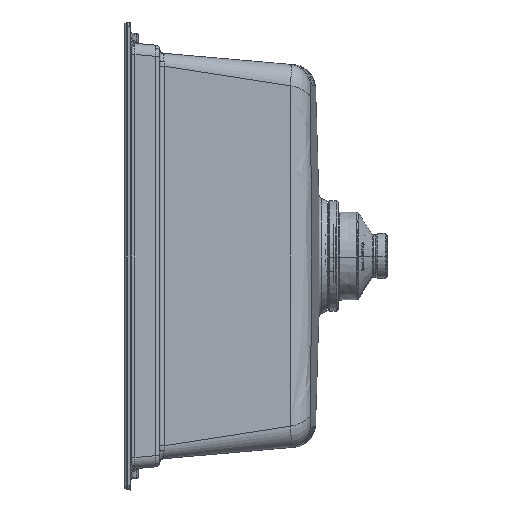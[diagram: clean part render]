
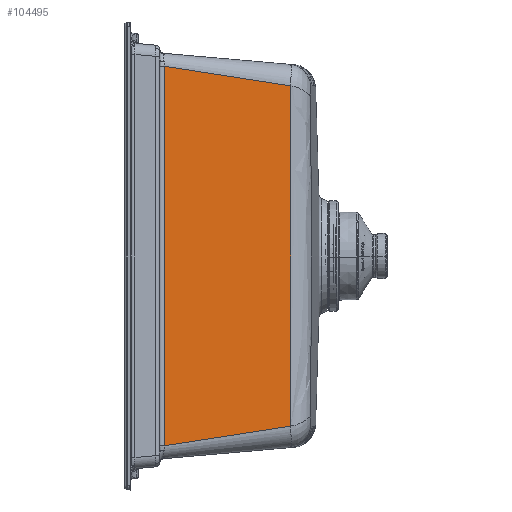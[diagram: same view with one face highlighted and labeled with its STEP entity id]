
A CAD part, left-side view. The second image highlights one B-rep face of the part: STEP entity #104495.
In plain terms, the highlighted planar face has unit normal (-0.996, -0.087, 0).
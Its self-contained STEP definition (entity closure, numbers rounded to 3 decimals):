
#9320 = VECTOR ( 'NONE', #123143, 1000. ) ;
#10449 = CARTESIAN_POINT ( 'NONE',  ( 33.522, -36.381, -47.272 ) ) ;
#13867 = ORIENTED_EDGE ( 'NONE', *, *, #24684, .T. ) ;
#24684 = EDGE_CURVE ( 'NONE', #52439, #131374, #196235, .T. ) ;
#25268 = AXIS2_PLACEMENT_3D ( 'NONE', #224125, #173479, #171213 ) ;
#32129 = ORIENTED_EDGE ( 'NONE', *, *, #119717, .F. ) ;
#42089 = CARTESIAN_POINT ( 'NONE',  ( 33.522, -36.381, -459.54 ) ) ;
#43607 = EDGE_LOOP ( 'NONE', ( #177625, #13867, #32129, #160969 ) ) ;
#48391 = VECTOR ( 'NONE', #182372, 1000. ) ;
#52439 = VERTEX_POINT ( 'NONE', #92304 ) ;
#71355 = LINE ( 'NONE', #141519, #9320 ) ;
#74730 = B_SPLINE_CURVE_WITH_KNOTS ( 'NONE', 3,
 ( #212930, #199078, #141671, #93244 ),
 .UNSPECIFIED., .F., .F.,
 ( 4, 4 ),
 ( -0.109, 0.028 ),
 .UNSPECIFIED. ) ;
#78265 = CARTESIAN_POINT ( 'NONE',  ( 37.462, -81.41, -54.262 ) ) ;
#90480 = EDGE_CURVE ( 'NONE', #52439, #176246, #94150, .T. ) ;
#92304 = CARTESIAN_POINT ( 'NONE',  ( 33.522, -36.381, -47.272 ) ) ;
#93244 = CARTESIAN_POINT ( 'NONE',  ( 33.522, -36.381, -452.728 ) ) ;
#94150 = B_SPLINE_CURVE_WITH_KNOTS ( 'NONE', 3,
 ( #10449, #78265, #150648, #148385 ),
 .UNSPECIFIED., .F., .F.,
 ( 4, 4 ),
 ( -0.101, 0.036 ),
 .UNSPECIFIED. ) ;
#95771 = EDGE_CURVE ( 'NONE', #176246, #208647, #71355, .T. ) ;
#104493 = FACE_OUTER_BOUND ( 'NONE', #43607, .T. ) ;
#104495 = ADVANCED_FACE ( 'NONE', ( #104493 ), #137859, .F. ) ;
#119717 = EDGE_CURVE ( 'NONE', #208647, #131374, #74730, .T. ) ;
#120750 = CARTESIAN_POINT ( 'NONE',  ( 45.341, -171.466, -68.241 ) ) ;
#122010 = CARTESIAN_POINT ( 'NONE',  ( 45.341, -171.466, -431.759 ) ) ;
#123143 = DIRECTION ( 'NONE',  ( 0., 0., -1. ) ) ;
#131374 = VERTEX_POINT ( 'NONE', #196632 ) ;
#137859 = PLANE ( 'NONE',  #25268 ) ;
#141519 = CARTESIAN_POINT ( 'NONE',  ( 45.341, -171.466, -459.54 ) ) ;
#141671 = CARTESIAN_POINT ( 'NONE',  ( 37.462, -81.41, -445.738 ) ) ;
#148385 = CARTESIAN_POINT ( 'NONE',  ( 45.341, -171.466, -68.241 ) ) ;
#150648 = CARTESIAN_POINT ( 'NONE',  ( 41.401, -126.438, -61.251 ) ) ;
#160969 = ORIENTED_EDGE ( 'NONE', *, *, #95771, .F. ) ;
#171213 = DIRECTION ( 'NONE',  ( -0.087, 0.996, 0. ) ) ;
#173479 = DIRECTION ( 'NONE',  ( 0.996, 0.087, 0. ) ) ;
#176246 = VERTEX_POINT ( 'NONE', #120750 ) ;
#177625 = ORIENTED_EDGE ( 'NONE', *, *, #90480, .F. ) ;
#182372 = DIRECTION ( 'NONE',  ( 0., 0., -1. ) ) ;
#196235 = LINE ( 'NONE', #42089, #48391 ) ;
#196632 = CARTESIAN_POINT ( 'NONE',  ( 33.522, -36.381, -452.728 ) ) ;
#199078 = CARTESIAN_POINT ( 'NONE',  ( 41.401, -126.438, -438.749 ) ) ;
#208647 = VERTEX_POINT ( 'NONE', #122010 ) ;
#212930 = CARTESIAN_POINT ( 'NONE',  ( 45.341, -171.466, -431.759 ) ) ;
#224125 = CARTESIAN_POINT ( 'NONE',  ( 32.49, -24.583, -459.54 ) ) ;
